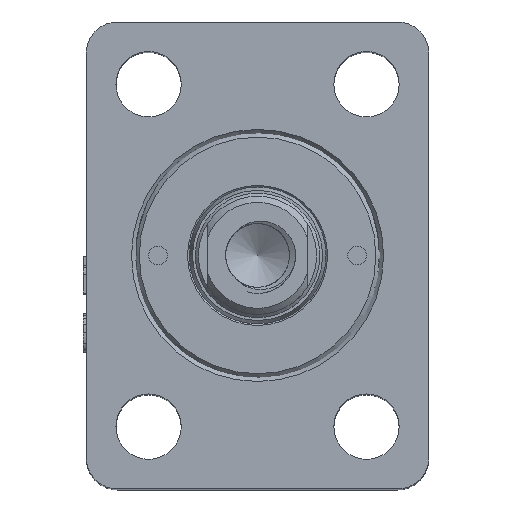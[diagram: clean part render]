
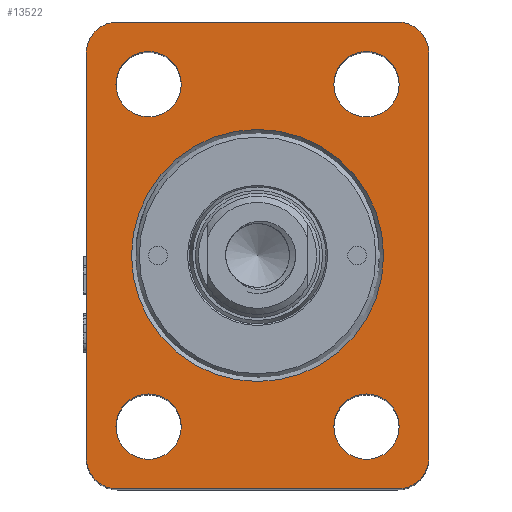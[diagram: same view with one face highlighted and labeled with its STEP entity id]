
A CAD part, top view. The second image highlights one B-rep face of the part: STEP entity #13522.
In plain terms, the highlighted planar face has unit normal (0, 0, 1).
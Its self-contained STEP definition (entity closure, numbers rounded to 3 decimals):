
#1468=FACE_BOUND('',#5100,.T.);
#1469=FACE_BOUND('',#5101,.T.);
#1470=FACE_BOUND('',#5102,.T.);
#1471=FACE_BOUND('',#5103,.T.);
#1472=FACE_BOUND('',#5104,.T.);
#1672=PLANE('',#14153);
#1859=LINE('',#29522,#2752);
#2520=LINE('',#39424,#3413);
#2521=LINE('',#39428,#3414);
#2522=LINE('',#39432,#3415);
#2752=VECTOR('',#15138,10.);
#3413=VECTOR('',#16095,10.);
#3414=VECTOR('',#16098,10.);
#3415=VECTOR('',#16103,10.);
#4287=FACE_OUTER_BOUND('',#5099,.T.);
#5099=EDGE_LOOP('',(#12418,#12419,#12420,#12421,#12422,#12423,#12424,#12425));
#5100=EDGE_LOOP('',(#12426));
#5101=EDGE_LOOP('',(#12427));
#5102=EDGE_LOOP('',(#12428));
#5103=EDGE_LOOP('',(#12429));
#5104=EDGE_LOOP('',(#12430));
#5351=CIRCLE('',#14151,20.25);
#5352=CIRCLE('',#14154,5.);
#5353=CIRCLE('',#14155,5.);
#5354=CIRCLE('',#14156,5.);
#5355=CIRCLE('',#14157,5.);
#5356=CIRCLE('',#14158,5.25);
#5357=CIRCLE('',#14159,5.25);
#5358=CIRCLE('',#14160,5.25);
#5359=CIRCLE('',#14161,5.25);
#5740=VERTEX_POINT('',#29518);
#5742=VERTEX_POINT('',#29521);
#6619=VERTEX_POINT('',#39415);
#6620=VERTEX_POINT('',#39420);
#6621=VERTEX_POINT('',#39421);
#6622=VERTEX_POINT('',#39423);
#6623=VERTEX_POINT('',#39425);
#6624=VERTEX_POINT('',#39427);
#6625=VERTEX_POINT('',#39430);
#6626=VERTEX_POINT('',#39433);
#6627=VERTEX_POINT('',#39435);
#6628=VERTEX_POINT('',#39437);
#6629=VERTEX_POINT('',#39439);
#7258=EDGE_CURVE('',#5742,#5740,#1859,.T.);
#8582=EDGE_CURVE('',#6619,#6619,#5351,.T.);
#8584=EDGE_CURVE('',#6620,#6621,#5352,.T.);
#8585=EDGE_CURVE('',#6620,#6622,#2520,.T.);
#8586=EDGE_CURVE('',#6623,#6622,#5353,.T.);
#8587=EDGE_CURVE('',#6623,#6624,#2521,.T.);
#8588=EDGE_CURVE('',#5742,#6624,#5354,.T.);
#8589=EDGE_CURVE('',#6625,#5740,#5355,.T.);
#8590=EDGE_CURVE('',#6625,#6621,#2522,.T.);
#8591=EDGE_CURVE('',#6626,#6626,#5356,.T.);
#8592=EDGE_CURVE('',#6627,#6627,#5357,.T.);
#8593=EDGE_CURVE('',#6628,#6628,#5358,.T.);
#8594=EDGE_CURVE('',#6629,#6629,#5359,.T.);
#12418=ORIENTED_EDGE('',*,*,#8584,.F.);
#12419=ORIENTED_EDGE('',*,*,#8585,.T.);
#12420=ORIENTED_EDGE('',*,*,#8586,.F.);
#12421=ORIENTED_EDGE('',*,*,#8587,.T.);
#12422=ORIENTED_EDGE('',*,*,#8588,.F.);
#12423=ORIENTED_EDGE('',*,*,#7258,.T.);
#12424=ORIENTED_EDGE('',*,*,#8589,.F.);
#12425=ORIENTED_EDGE('',*,*,#8590,.T.);
#12426=ORIENTED_EDGE('',*,*,#8591,.T.);
#12427=ORIENTED_EDGE('',*,*,#8592,.T.);
#12428=ORIENTED_EDGE('',*,*,#8593,.T.);
#12429=ORIENTED_EDGE('',*,*,#8594,.T.);
#12430=ORIENTED_EDGE('',*,*,#8582,.F.);
#13522=ADVANCED_FACE('',(#4287,#1468,#1469,#1470,#1471,#1472),#1672,.T.);
#14151=AXIS2_PLACEMENT_3D('',#39416,#16086,#16087);
#14153=AXIS2_PLACEMENT_3D('',#39419,#16091,#16092);
#14154=AXIS2_PLACEMENT_3D('',#39422,#16093,#16094);
#14155=AXIS2_PLACEMENT_3D('',#39426,#16096,#16097);
#14156=AXIS2_PLACEMENT_3D('',#39429,#16099,#16100);
#14157=AXIS2_PLACEMENT_3D('',#39431,#16101,#16102);
#14158=AXIS2_PLACEMENT_3D('',#39434,#16104,#16105);
#14159=AXIS2_PLACEMENT_3D('',#39436,#16106,#16107);
#14160=AXIS2_PLACEMENT_3D('',#39438,#16108,#16109);
#14161=AXIS2_PLACEMENT_3D('',#39440,#16110,#16111);
#15138=DIRECTION('',(0.,-1.,0.));
#16086=DIRECTION('center_axis',(0.,0.,1.));
#16087=DIRECTION('ref_axis',(-1.,0.,0.));
#16091=DIRECTION('center_axis',(0.,0.,1.));
#16092=DIRECTION('ref_axis',(1.,0.,0.));
#16093=DIRECTION('center_axis',(0.,0.,-1.));
#16094=DIRECTION('ref_axis',(0.707,-0.707,0.));
#16095=DIRECTION('',(0.,1.,0.));
#16096=DIRECTION('center_axis',(0.,0.,-1.));
#16097=DIRECTION('ref_axis',(0.707,0.707,0.));
#16098=DIRECTION('',(-1.,0.,0.));
#16099=DIRECTION('center_axis',(0.,0.,-1.));
#16100=DIRECTION('ref_axis',(-0.707,0.707,0.));
#16101=DIRECTION('center_axis',(0.,0.,-1.));
#16102=DIRECTION('ref_axis',(-0.707,-0.707,0.));
#16103=DIRECTION('',(1.,0.,0.));
#16104=DIRECTION('center_axis',(0.,0.,-1.));
#16105=DIRECTION('ref_axis',(-1.,0.,0.));
#16106=DIRECTION('center_axis',(0.,0.,-1.));
#16107=DIRECTION('ref_axis',(-1.,0.,0.));
#16108=DIRECTION('center_axis',(0.,0.,-1.));
#16109=DIRECTION('ref_axis',(-1.,0.,0.));
#16110=DIRECTION('center_axis',(0.,0.,-1.));
#16111=DIRECTION('ref_axis',(-1.,0.,0.));
#29518=CARTESIAN_POINT('',(0.,5.,100.));
#29521=CARTESIAN_POINT('',(0.,70.,100.));
#29522=CARTESIAN_POINT('',(0.,75.,100.));
#39415=CARTESIAN_POINT('',(47.75,37.5,100.));
#39416=CARTESIAN_POINT('Origin',(27.5,37.5,100.));
#39419=CARTESIAN_POINT('Origin',(27.5,37.5,100.));
#39420=CARTESIAN_POINT('',(55.,5.,100.));
#39421=CARTESIAN_POINT('',(50.,0.,100.));
#39422=CARTESIAN_POINT('Origin',(50.,5.,100.));
#39423=CARTESIAN_POINT('',(55.,70.,100.));
#39424=CARTESIAN_POINT('',(55.,0.,100.));
#39425=CARTESIAN_POINT('',(50.,75.,100.));
#39426=CARTESIAN_POINT('Origin',(50.,70.,100.));
#39427=CARTESIAN_POINT('',(5.,75.,100.));
#39428=CARTESIAN_POINT('',(55.,75.,100.));
#39429=CARTESIAN_POINT('Origin',(5.,70.,100.));
#39430=CARTESIAN_POINT('',(5.,0.,100.));
#39431=CARTESIAN_POINT('Origin',(5.,5.,100.));
#39432=CARTESIAN_POINT('',(0.,0.,100.));
#39433=CARTESIAN_POINT('',(50.25,10.,100.));
#39434=CARTESIAN_POINT('Origin',(45.,10.,100.));
#39435=CARTESIAN_POINT('',(50.25,65.,100.));
#39436=CARTESIAN_POINT('Origin',(45.,65.,100.));
#39437=CARTESIAN_POINT('',(15.25,10.,100.));
#39438=CARTESIAN_POINT('Origin',(10.,10.,100.));
#39439=CARTESIAN_POINT('',(15.25,65.,100.));
#39440=CARTESIAN_POINT('Origin',(10.,65.,100.));
